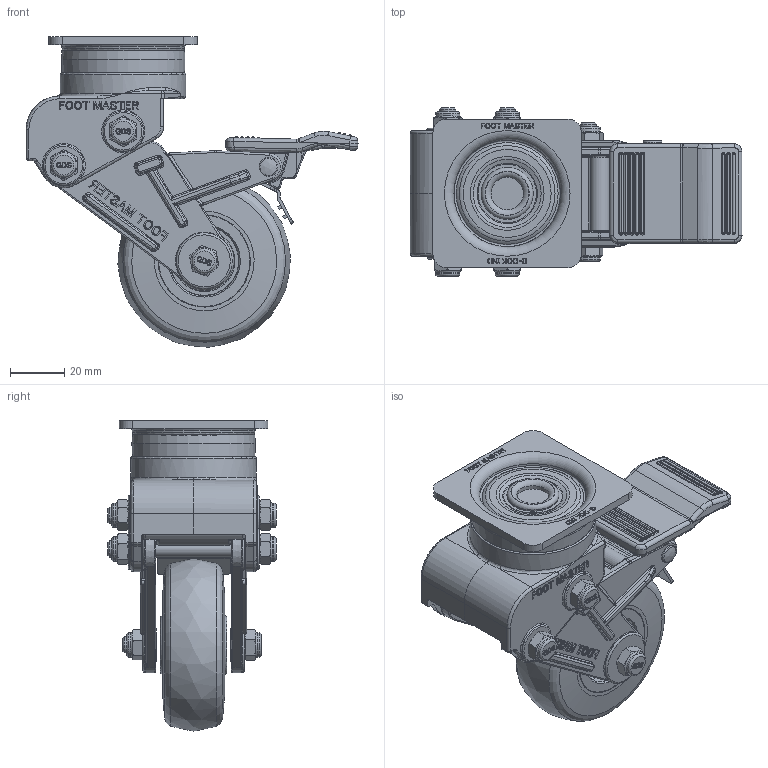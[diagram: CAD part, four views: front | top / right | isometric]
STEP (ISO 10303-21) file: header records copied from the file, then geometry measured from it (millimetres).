
FILE_DESCRIPTION(/* description */ (''),/* implementation_level */ '2;1');
FILE_NAME(/* name */ 'C:\Users\admin\Desktop\JYS\개발품\상세설계_20220328\홈페이지용 도면\GDS-65-BSF-EUS.stp',/* time_stamp */ '2023-03-08T15:13:21+09:00',/* author */ ('admin'),/* organization */ (''),/* preprocessor_version */ 'ST-DEVELOPER v18.1',/* originating_system */ 'Autodesk Inventor 2021',/* authorisation */ '');
FILE_SCHEMA (('AUTOMOTIVE_DESIGN { 1 0 10303 214 3 1 1 }'));
Products named in the file (1): GDS-65_BSF_REV01_Shrinkwrap_1
Bounding box: 122.96 x 62.3 x 114.97 mm (x, y, z)
Volume: 167175.4 mm3; surface area: 61046.4 mm2
Topology: 1 solids, 1 shells, 2671 faces, 6870 edges, 4300 vertices
Faces by surface type: plane 922, bspline 844, cylinder 536, cone 163, torus 154, sphere 52
Full cylindrical faces by diameter (mm): 2 x1, 4 x3, 6 x5, 7 x2, 8.8 x3, 9 x6, 12 x1, 17.216 x2, 18 x1, 19.3 x1, 20 x2, 22 x2, 22.784 x2, 30 x1, 43 x1, 44.5 x1, 46.5 x1
Entity records: 93375 total; most frequent: CARTESIAN_POINT 30289, ORIENTED_EDGE 13660, DIRECTION 10796, EDGE_CURVE 6830, VERTEX_POINT 4300, AXIS2_PLACEMENT_3D 3798, LINE 3200, VECTOR 3200
